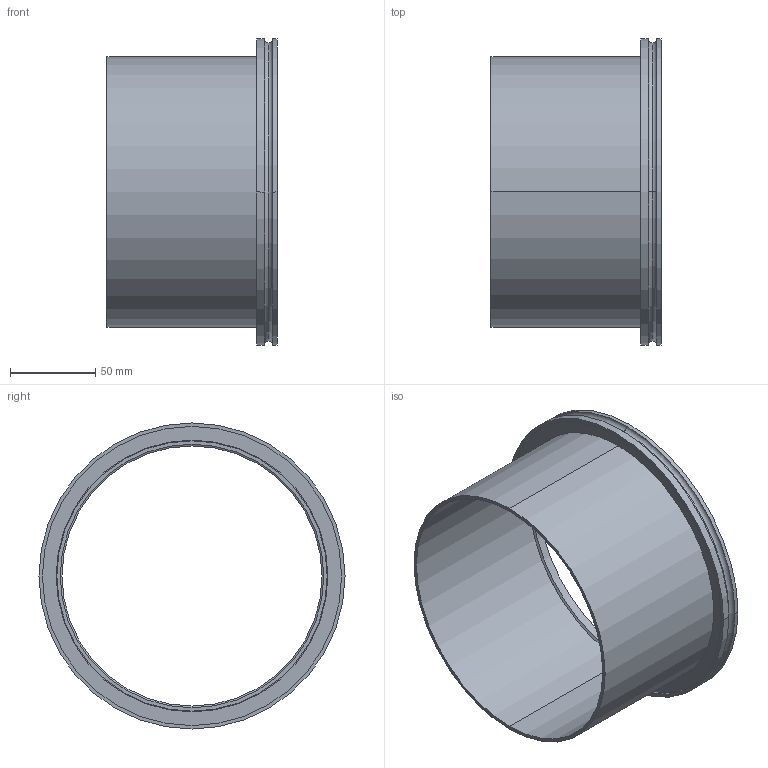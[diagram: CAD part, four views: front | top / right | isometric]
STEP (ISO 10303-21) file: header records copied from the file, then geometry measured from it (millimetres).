
FILE_DESCRIPTION((''),'2;1');
FILE_NAME('W:\212-053.stp','2004-01-07T14:48:40',('KAA'),(''),'Autodesk Inventor (R) 6.0','Autodesk Inventor (R) 6.0','');
FILE_SCHEMA(('CONFIG_CONTROL_DESIGN'));
Length unit declared in the file: millimetre
Products named in the file (1): 212-053
Bounding box: 100 x 180 x 180 mm (x, y, z)
Volume: 152418.1 mm3; surface area: 121927.3 mm2
Topology: 1 solids, 1 shells, 32 faces, 71 edges, 45 vertices
Faces by surface type: cylinder 14, plane 6, bspline 4, torus 4, cone 4
Entity records: 1171 total; most frequent: CARTESIAN_POINT 325, DIRECTION 182, ORIENTED_EDGE 142, AXIS2_PLACEMENT_3D 82, EDGE_CURVE 71, CIRCLE 53, VERTEX_POINT 45, EDGE_LOOP 38
